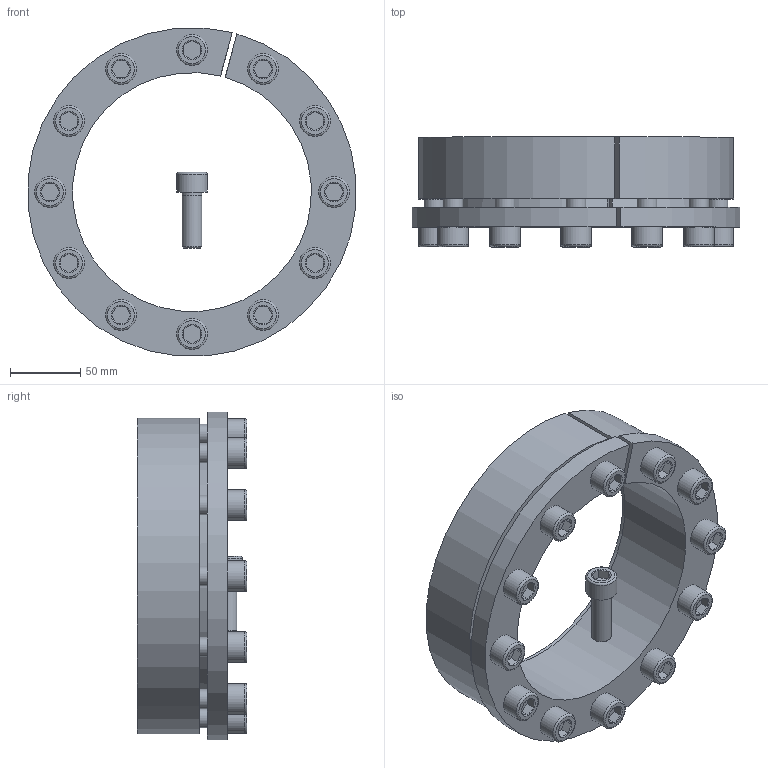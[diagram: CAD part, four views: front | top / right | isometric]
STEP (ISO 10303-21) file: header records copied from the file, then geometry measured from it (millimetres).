
FILE_DESCRIPTION( ( 'Unknown' ), '1' );
FILE_NAME( 'C:/Dokumente und Einstellungen/Sven/Desktop/homepage/cad - homepage/KBS16/KBS 16 - 170 x 225.stp', 'Unknown', ( 'Unknown' ), ( 'Unknown' ), 'XStep 1.0', 'Unknown', ' ' );
FILE_SCHEMA( ( 'automotive_design' ) );
Length unit declared in the file: millimetre
Products named in the file (3): Assem1; KBS 16 - 170 x 225; ISO EN DIN 4762 M14x40
Bounding box: 233.26 x 78 x 233.26 mm (x, y, z)
Volume: 2032534.1 mm3; surface area: 391101.6 mm2
Topology: 15 solids, 15 shells, 397 faces, 785 edges, 470 vertices
Faces by surface type: plane 170, cylinder 106, cone 95, torus 26
Full cylindrical faces by diameter (mm): 12 x13, 14 x74, 22 x13
Entity records: 2170 total; most frequent: CARTESIAN_POINT 349, DIRECTION 328, ORIENTED_EDGE 226, AXIS2_PLACEMENT_3D 150, EDGE_LOOP 144, EDGE_CURVE 113, FACE_OUTER_BOUND 91, VERTEX_POINT 91
